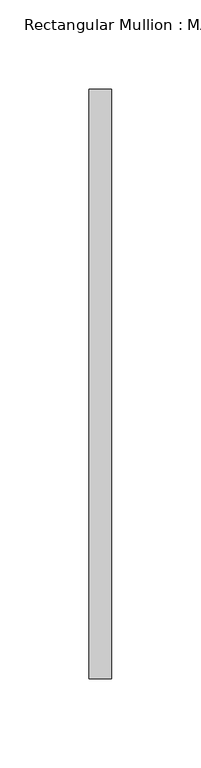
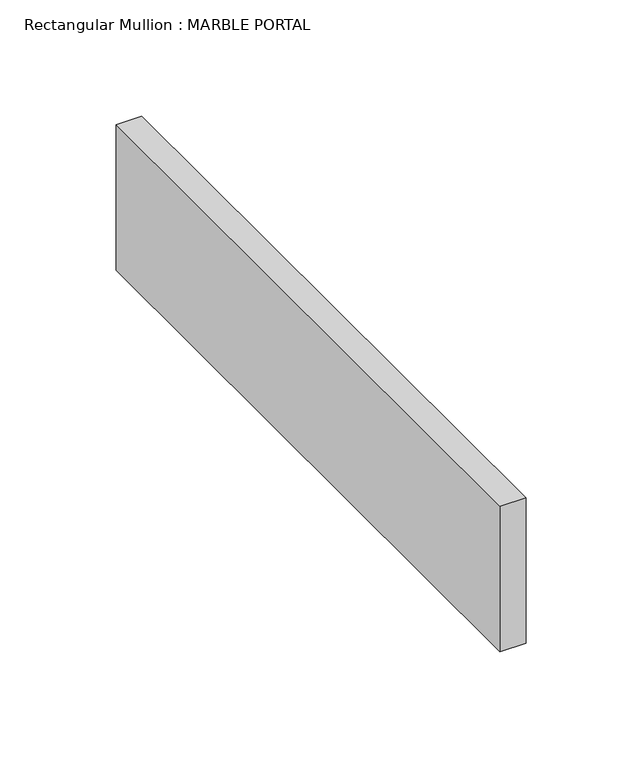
"""IFC4 building model written with IfcOpenShell, lengths in millimetres: member geometry, Rectangular Mullion : MARBLE PORTAL."""

from ifc_helpers import new_model, si_unit, frame, origin, place, context, project, spatial, polyline, outline, extrude, source, transform, mapped, element, save


def rectangular_mullion_marble_portal_6730339e(model_context):
    return source(origin(), model_context, "Body", "SweptSolid", [
        extrude(outline(polyline([(6.35, 190.5), (6.35, -139.7), (-6.35, -139.7), (-6.35, 190.5), (6.35, 190.5)])), frame((0.0, 0.0, -76.2), z_axis=(0.0, 0.0, 1.0), x_axis=(1.0, 0.0, 0.0)), (0.0, 0.0, 1.0), 76.2),
    ])


if __name__ == "__main__":
    model = new_model("IFC4")
    model_context = context("Model", 3, world=origin())
    ifc_project = project(units=[si_unit("LENGTHUNIT", "METRE", prefix="MILLI")], contexts=[model_context])
    site = spatial("IfcSite", under=ifc_project)
    building = spatial("IfcBuilding", under=site)
    placement = place(None, origin())
    rectangular_mullion_marble_portal_shape = rectangular_mullion_marble_portal_6730339e(model_context)
    element("IfcMember", 1, ObjectType="Rectangular Mullion : MARBLE PORTAL", at=placement, inside=building, context=model_context, shape_type="MappedRepresentation", body=[
        mapped(rectangular_mullion_marble_portal_shape, transform((0.0, 0.0, 0.0), x_axis=(1.0, 0.0, 0.0), y_axis=(0.0, 1.0, 0.0), z_axis=(0.0, 0.0, 1.0))),
    ])
    save(model, "model.ifc")
